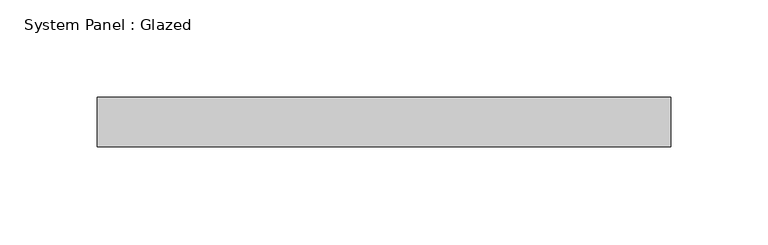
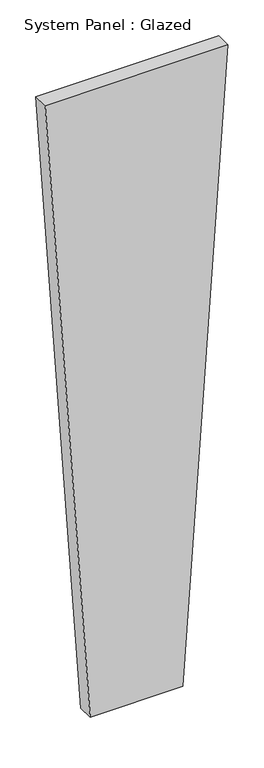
"""IFC4 building model written with IfcOpenShell, lengths in millimetres: plate geometry, System Panel : Glazed."""

from ifc_helpers import new_model, si_unit, frame, origin, place, context, project, spatial, polyline, outline, extrude, source, transform, mapped, element, save


def system_panel_glazed_2f3c7a1b(model_context):
    return source(origin(), model_context, "Body", "SweptSolid", [
        extrude(outline(polyline([(0.0, -74.625436), (0.0, 74.625436), (1064.3444742, 146.9654679), (1064.3444742, -146.9654679), (0.0, -74.625436)])), frame((0.0, -44.45, 0.0), z_axis=(0.0, 1.0, 0.0), x_axis=(0.0, 0.0, 1.0)), (0.0, 0.0, 1.0), 25.4),
    ])


if __name__ == "__main__":
    model = new_model("IFC4")
    model_context = context("Model", 3, world=origin())
    ifc_project = project(units=[si_unit("LENGTHUNIT", "METRE", prefix="MILLI")], contexts=[model_context])
    site = spatial("IfcSite", under=ifc_project)
    building = spatial("IfcBuilding", under=site)
    placement = place(None, origin())
    system_panel_glazed_shape = system_panel_glazed_2f3c7a1b(model_context)
    element("IfcPlate", 1, ObjectType="System Panel : Glazed", at=placement, inside=building, context=model_context, shape_type="MappedRepresentation", body=[
        mapped(system_panel_glazed_shape, transform((0.0, 0.0, 0.0), x_axis=(1.0, 0.0, 0.0), y_axis=(0.0, 1.0, 0.0), z_axis=(0.0, 0.0, 1.0))),
    ])
    save(model, "model.ifc")
